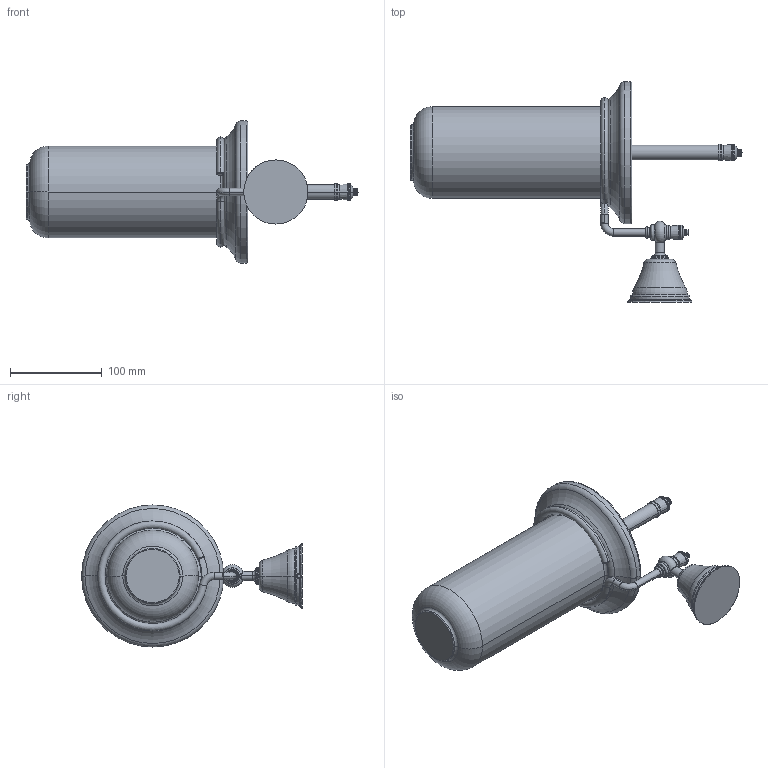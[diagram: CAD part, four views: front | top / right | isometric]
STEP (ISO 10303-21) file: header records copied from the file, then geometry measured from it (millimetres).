
FILE_DESCRIPTION((''),'2;1');
FILE_NAME('37312--00_SUB01_SW0001','2026-10-01T14:25:48',('simi1'),(''),'CREO PARAMETRIC BY PTC INC, 2022244','CREO PARAMETRIC BY PTC INC, 2022244','');
FILE_SCHEMA(('CONFIG_CONTROL_DESIGN'));
Length unit declared in the file: millimetre
Products named in the file (1): 37312--00_SUB01_SW0001
Bounding box: 362.11 x 240.83 x 155 mm (x, y, z)
Surface area: 160790.6 mm2 (no closed solid volume)
Topology: 0 solids, 23 shells, 203 faces, 449 edges, 252 vertices
Faces by surface type: torus 123, cylinder 43, plane 11, cone 10, bspline 8, sphere 8
Entity records: 6831 total; most frequent: CARTESIAN_POINT 2220, DIRECTION 1176, ORIENTED_EDGE 818, AXIS2_PLACEMENT_3D 560, EDGE_CURVE 445, CIRCLE 365, VERTEX_POINT 252, EDGE_LOOP 203
